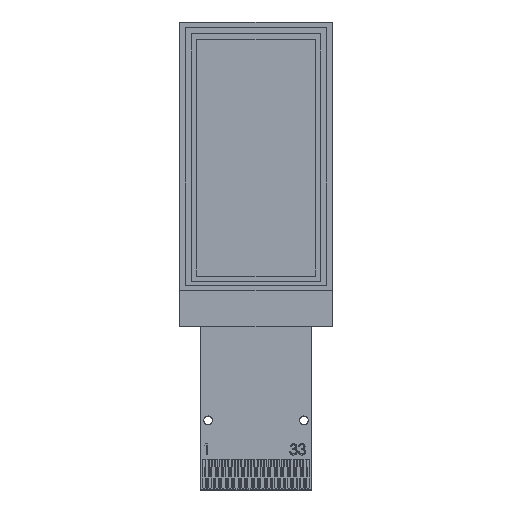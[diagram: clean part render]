
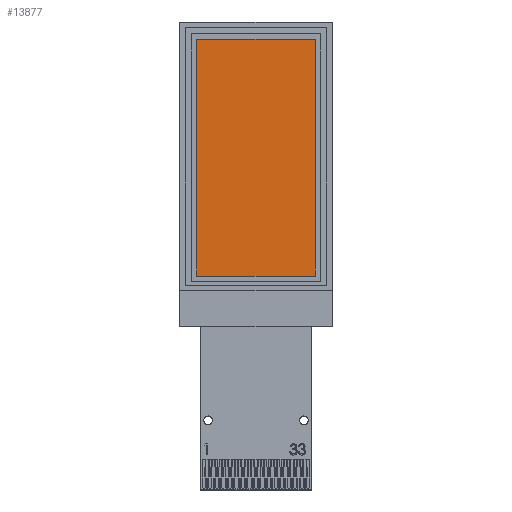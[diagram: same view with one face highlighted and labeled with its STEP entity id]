
A CAD part, top view. The second image highlights one B-rep face of the part: STEP entity #13877.
In plain terms, the highlighted planar face has unit normal (0, 0, 1).
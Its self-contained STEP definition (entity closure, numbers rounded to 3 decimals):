
#582 = DIRECTION ( 'NONE',  ( 0., 1., 0. ) ) ;
#864 = LINE ( 'NONE', #2875, #10392 ) ;
#1344 = CARTESIAN_POINT ( 'NONE',  ( 4.783, 19.225, 0.8 ) ) ;
#2875 = CARTESIAN_POINT ( 'NONE',  ( 4.783, 0., 0.8 ) ) ;
#3392 = ORIENTED_EDGE ( 'NONE', *, *, #23689, .T. ) ;
#5129 = VERTEX_POINT ( 'NONE', #13508 ) ;
#5223 = CARTESIAN_POINT ( 'NONE',  ( 0., 19.225, 0.8 ) ) ;
#5242 = ORIENTED_EDGE ( 'NONE', *, *, #24204, .T. ) ;
#6753 = CARTESIAN_POINT ( 'NONE',  ( -6.077, 19.225, 0.8 ) ) ;
#7050 = PLANE ( 'NONE',  #9805 ) ;
#9805 = AXIS2_PLACEMENT_3D ( 'NONE', #11917, #16350, #20639 ) ;
#10392 = VECTOR ( 'NONE', #582, 1000. ) ;
#11721 = EDGE_CURVE ( 'NONE', #18917, #5129, #20276, .T. ) ;
#11784 = CARTESIAN_POINT ( 'NONE',  ( 0., -2.515, 0.8 ) ) ;
#11917 = CARTESIAN_POINT ( 'NONE',  ( 0., 0., 0.8 ) ) ;
#13508 = CARTESIAN_POINT ( 'NONE',  ( -6.077, -2.515, 0.8 ) ) ;
#13877 = ADVANCED_FACE ( 'NONE', ( #26815 ), #7050, .F. ) ;
#13928 = DIRECTION ( 'NONE',  ( -1., 0., 0. ) ) ;
#14072 = LINE ( 'NONE', #11784, #23168 ) ;
#14127 = DIRECTION ( 'NONE',  ( 0., -1., 0. ) ) ;
#14929 = VECTOR ( 'NONE', #14127, 1000. ) ;
#16350 = DIRECTION ( 'NONE',  ( 0., 0., -1. ) ) ;
#16367 = DIRECTION ( 'NONE',  ( 1., 0., 0. ) ) ;
#16674 = ORIENTED_EDGE ( 'NONE', *, *, #27035, .T. ) ;
#18759 = ORIENTED_EDGE ( 'NONE', *, *, #11721, .T. ) ;
#18917 = VERTEX_POINT ( 'NONE', #6753 ) ;
#20276 = LINE ( 'NONE', #24712, #14929 ) ;
#20438 = EDGE_LOOP ( 'NONE', ( #16674, #18759, #3392, #5242 ) ) ;
#20639 = DIRECTION ( 'NONE',  ( -1., 0., 0. ) ) ;
#22823 = CARTESIAN_POINT ( 'NONE',  ( 4.783, -2.515, 0.8 ) ) ;
#23168 = VECTOR ( 'NONE', #16367, 1000. ) ;
#23689 = EDGE_CURVE ( 'NONE', #5129, #28286, #14072, .T. ) ;
#23883 = VERTEX_POINT ( 'NONE', #1344 ) ;
#24204 = EDGE_CURVE ( 'NONE', #28286, #23883, #864, .T. ) ;
#24360 = VECTOR ( 'NONE', #13928, 1000. ) ;
#24712 = CARTESIAN_POINT ( 'NONE',  ( -6.077, 0., 0.8 ) ) ;
#24807 = LINE ( 'NONE', #5223, #24360 ) ;
#26815 = FACE_OUTER_BOUND ( 'NONE', #20438, .T. ) ;
#27035 = EDGE_CURVE ( 'NONE', #23883, #18917, #24807, .T. ) ;
#28286 = VERTEX_POINT ( 'NONE', #22823 ) ;
